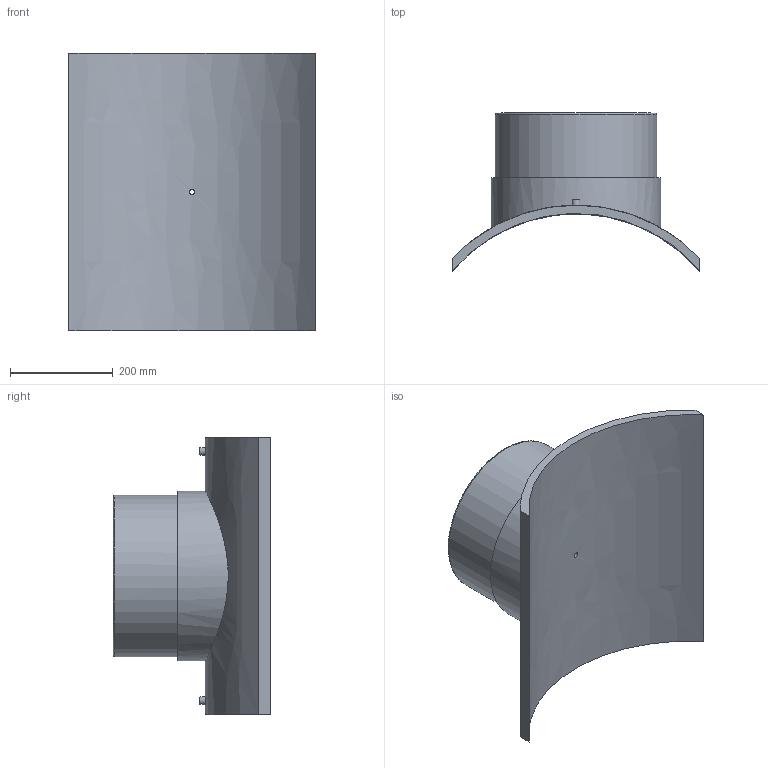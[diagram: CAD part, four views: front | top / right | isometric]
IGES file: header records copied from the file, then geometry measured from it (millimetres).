
Global section: file name: 495803630315T; native system: Autodesk Inventor 2019; preprocessor: unknown; author: KIM; date: 20240404.114938; units: millimetre
Bounding box: 481 x 307.57 x 540 mm (x, y, z)
Volume: 10793027.8 mm3; surface area: 990746.8 mm2
Topology: 1 solids, 1 shells, 29 faces, 60 edges, 43 vertices
Faces by surface type: bspline 29
